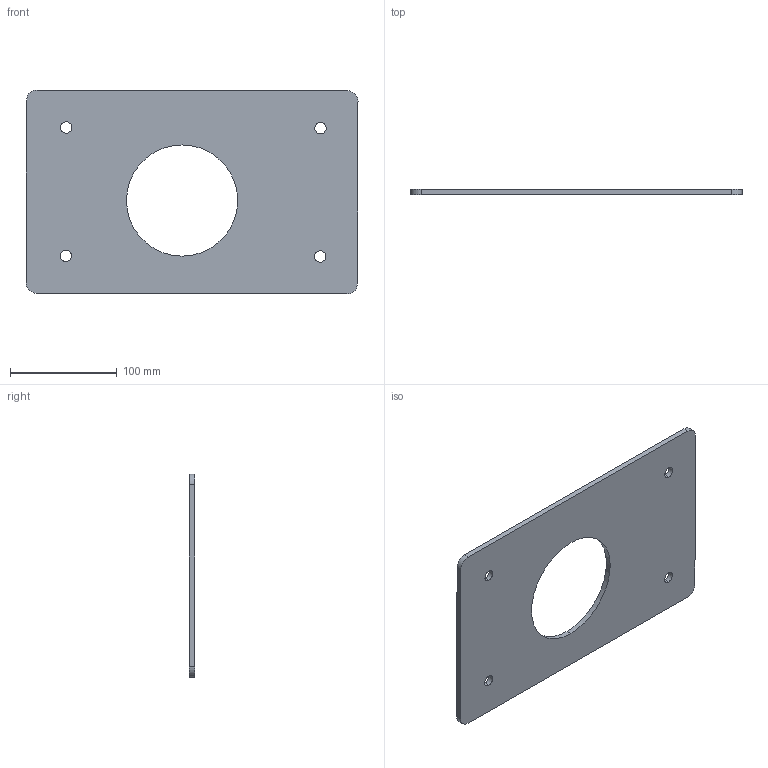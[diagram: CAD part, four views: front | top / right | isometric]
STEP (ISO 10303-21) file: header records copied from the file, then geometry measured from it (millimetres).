
FILE_DESCRIPTION (( 'STEP AP203' ), '1' );
FILE_NAME ('P-087-033-rev-A.STEP', '2024-01-06T12:39:37', ( '' ), ( '' ), 'SwSTEP 2.0', 'SolidWorks 2023', '' );
FILE_SCHEMA (( 'CONFIG_CONTROL_DESIGN' ));
Length unit declared in the file: millimetre
Products named in the file (1): P-087-033-rev-A
Bounding box: 310.42 x 5 x 190.72 mm (x, y, z)
Volume: 249864.7 mm3; surface area: 107153.4 mm2
Topology: 1 solids, 1 shells, 21 faces, 57 edges, 38 vertices
Faces by surface type: cylinder 15, plane 6
Entity records: 778 total; most frequent: DIRECTION 131, CARTESIAN_POINT 117, ORIENTED_EDGE 114, EDGE_CURVE 57, AXIS2_PLACEMENT_3D 52, VERTEX_POINT 38, EDGE_LOOP 31, CIRCLE 30
